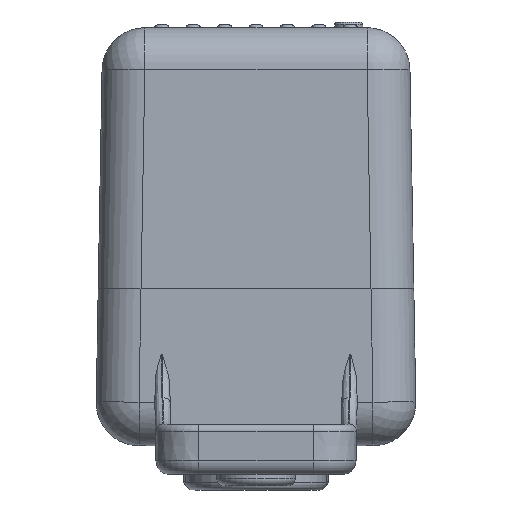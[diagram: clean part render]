
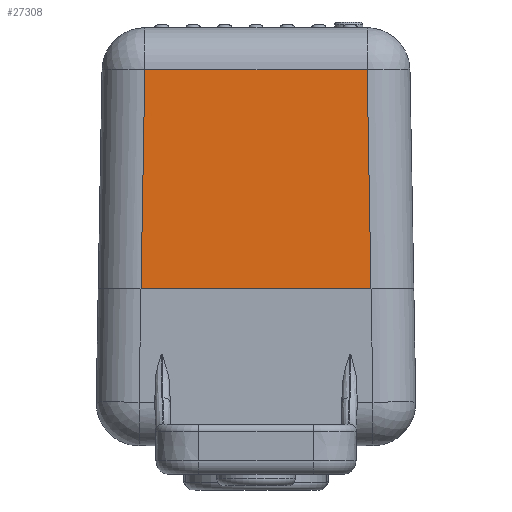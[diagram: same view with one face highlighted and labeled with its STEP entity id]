
A CAD part, left-side view. The second image highlights one B-rep face of the part: STEP entity #27308.
In plain terms, the highlighted planar face has unit normal (-1, 0, 0.018) as drawn and (-1, 0, -0.017) by its records, which use the part's own axes.
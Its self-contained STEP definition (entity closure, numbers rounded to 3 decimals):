
#966=PLANE('',#30006);
#2548=LINE('',#45684,#4938);
#2555=LINE('',#45712,#4945);
#2556=LINE('',#45718,#4946);
#2557=LINE('',#45720,#4947);
#4938=VECTOR('',#35835,10.);
#4945=VECTOR('',#35868,10.);
#4946=VECTOR('',#35877,10.);
#4947=VECTOR('',#35880,10.);
#7532=FACE_OUTER_BOUND('',#9135,.T.);
#9135=EDGE_LOOP('',(#22619,#22620,#22621,#22622));
#12978=VERTEX_POINT('',#45681);
#12979=VERTEX_POINT('',#45683);
#12987=VERTEX_POINT('',#45708);
#12988=VERTEX_POINT('',#45714);
#16352=EDGE_CURVE('',#12978,#12979,#2548,.T.);
#16368=EDGE_CURVE('',#12979,#12987,#2555,.T.);
#16371=EDGE_CURVE('',#12987,#12988,#2556,.T.);
#16372=EDGE_CURVE('',#12988,#12978,#2557,.T.);
#22619=ORIENTED_EDGE('',*,*,#16368,.F.);
#22620=ORIENTED_EDGE('',*,*,#16352,.F.);
#22621=ORIENTED_EDGE('',*,*,#16372,.F.);
#22622=ORIENTED_EDGE('',*,*,#16371,.F.);
#27308=ADVANCED_FACE('',(#7532),#966,.T.);
#30006=AXIS2_PLACEMENT_3D('',#45740,#35913,#35914);
#35835=DIRECTION('',(0.,-1.,0.));
#35868=DIRECTION('',(0.017,0.017,-1.));
#35877=DIRECTION('',(0.,1.,0.));
#35880=DIRECTION('',(-0.017,0.017,1.));
#35913=DIRECTION('center_axis',(-1.,0.,
-0.017));
#35914=DIRECTION('ref_axis',(0.,-1.,0.));
#45681=CARTESIAN_POINT('',(-24.759,8.059,18.3));
#45683=CARTESIAN_POINT('',(-24.759,-8.059,18.3));
#45684=CARTESIAN_POINT('',(-24.759,11.059,18.3));
#45708=CARTESIAN_POINT('',(-24.491,-7.791,2.948));
#45712=CARTESIAN_POINT('',(-24.437,-7.737,-0.132));
#45714=CARTESIAN_POINT('',(-24.491,7.791,2.948));
#45718=CARTESIAN_POINT('',(-24.491,5.529,2.948));
#45720=CARTESIAN_POINT('',(-24.433,7.733,-0.371));
#45740=CARTESIAN_POINT('Origin',(-24.439,11.059,0.003));
